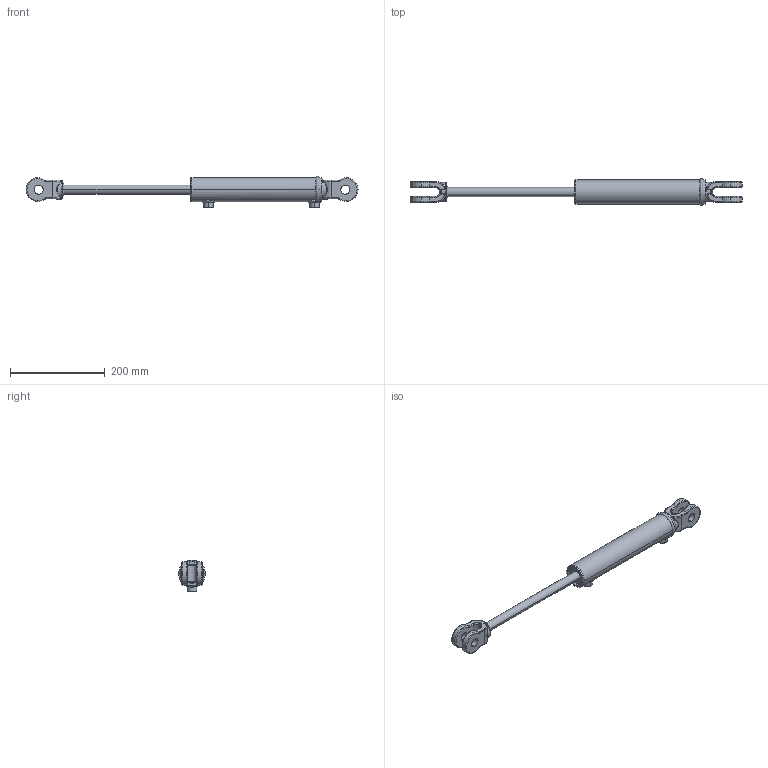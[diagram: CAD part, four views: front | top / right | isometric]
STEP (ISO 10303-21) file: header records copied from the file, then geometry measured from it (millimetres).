
FILE_DESCRIPTION (( 'STEP AP203' ), '1' );
FILE_NAME ('CL-CL150075x203 (8) extended.STEP', '2014-11-20T20:38:39', ( '' ), ( '' ), 'SwSTEP 2.0', 'SolidWorks 2014', '' );
FILE_SCHEMA (( 'CONFIG_CONTROL_DESIGN' ));
Length unit declared in the file: millimetre
Products named in the file (3): CL-CL150075x203 (8) BODY; 8 SPARE; CL-CL150075x203 (8) extended
Assembly tree (2 placements, depth 2):
  CL-CL150075x203 (8) extended
    CL-CL150075x203 (8) BODY
    8 SPARE
Bounding box: 700.41 x 56.77 x 66.78 mm (x, y, z)
Volume: 748795.7 mm3; surface area: 110248.9 mm2
Topology: 2 solids, 2 shells, 261 faces, 641 edges, 379 vertices
Faces by surface type: bspline 116, cylinder 88, plane 32, torus 17, cone 8
Entity records: 23685 total; most frequent: CARTESIAN_POINT 18075, ORIENTED_EDGE 1250, DIRECTION 902, EDGE_CURVE 625, VERTEX_POINT 379, AXIS2_PLACEMENT_3D 376, EDGE_LOOP 280, FACE_OUTER_BOUND 261
